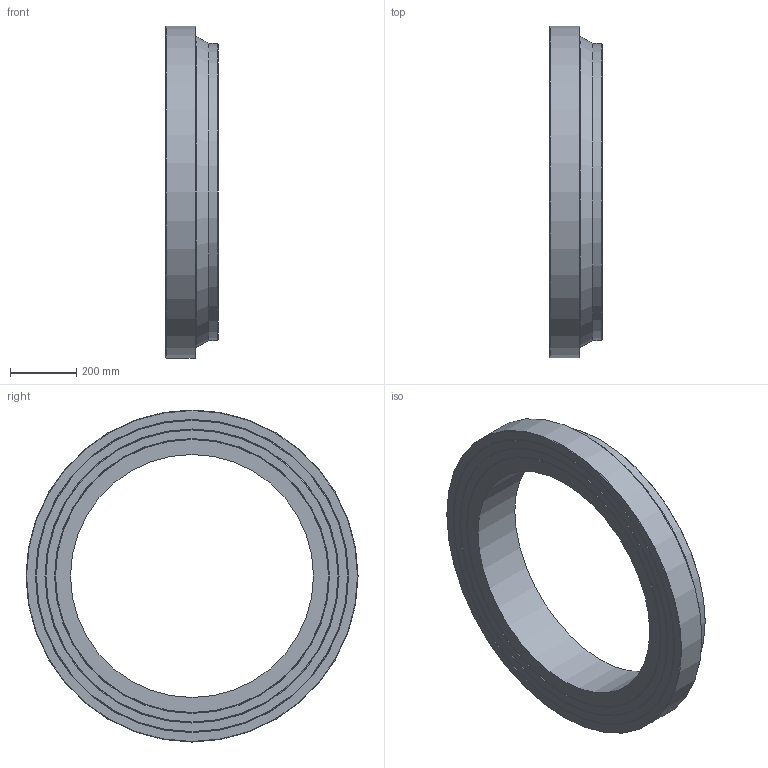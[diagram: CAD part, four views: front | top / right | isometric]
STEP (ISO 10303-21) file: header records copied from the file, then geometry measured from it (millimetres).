
FILE_DESCRIPTION(/* description */ ('Unknown'),/* implementation_level */ '2;1');
FILE_NAME(/* name */ 'CCP900C',/* time_stamp */ '2022-04-04T15:40:32+02:00',/* author */ ('Unknown'),/* organization */ ('Unknown'),/* preprocessor_version */ 'ST-DEVELOPER v18.1',/* originating_system */ 'Solid Edge',/* authorisation */ 'Unknown');
FILE_SCHEMA (('AUTOMOTIVE_DESIGN {1 0 10303 214 3 1 1}'));
Length unit declared in the file: millimetre
Products named in the file (1): CCP900C
Bounding box: 158 x 1006 x 1006 mm (x, y, z)
Volume: 48784668 mm3; surface area: 1529497.8 mm2
Topology: 1 solids, 1 shells, 20 faces, 35 edges, 21 vertices
Faces by surface type: cone 10, plane 6, cylinder 3, torus 1
Full cylindrical faces by diameter (mm): 736.2 x1, 900 x1, 1006 x1
Entity records: 438 total; most frequent: DIRECTION 82, CARTESIAN_POINT 61, AXIS2_PLACEMENT_3D 41, ORIENTED_EDGE 40, EDGE_LOOP 40, FACE_BOUND 40, EDGE_CURVE 20, VERTEX_POINT 20
